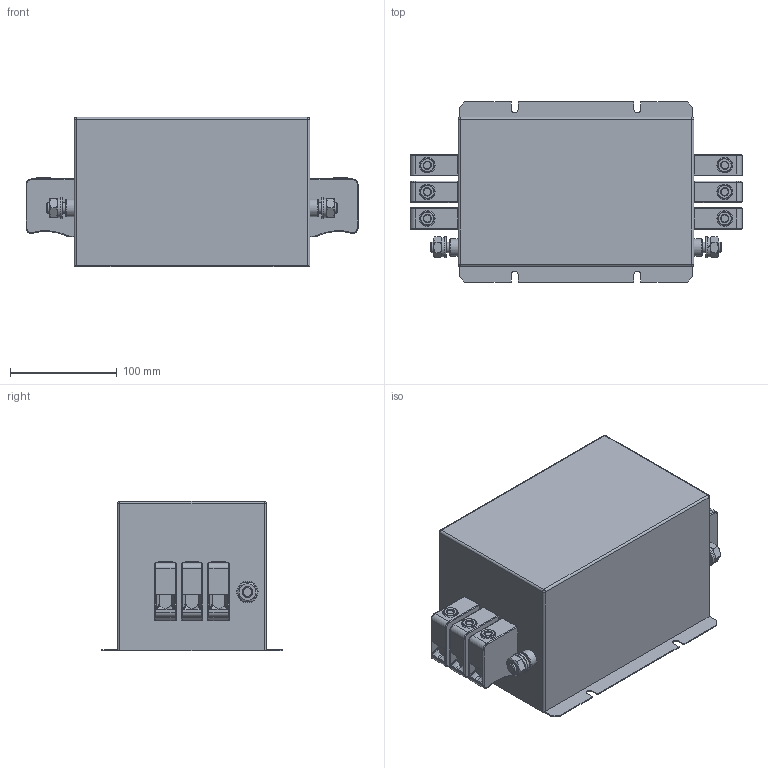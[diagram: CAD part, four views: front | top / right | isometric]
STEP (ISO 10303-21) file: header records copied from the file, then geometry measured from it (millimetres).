
FILE_DESCRIPTION((''),'2;1');
FILE_NAME('P:\Construction\INVENTOR_Projektedaten\HousingDesign\FN3120H-80-35.stp','2013-11-18T12:02:35',('erika.jenzer'),(''),'Autodesk Inventor 2013','Autodesk Inventor 2013','');
FILE_SCHEMA(('AUTOMOTIVE_DESIGN { 1 0 10303 214 1 1 1 1 }'));
Length unit declared in the file: millimetre
Products named in the file (1): FN3120H-80-35
Bounding box: 311.4 x 169 x 140 mm (x, y, z)
Volume: 4149556.3 mm3; surface area: 303436.9 mm2
Topology: 1 solids, 13 shells, 528 faces, 1206 edges, 740 vertices
Faces by surface type: plane 209, cylinder 171, bspline 66, torus 66, cone 12, sphere 4
Full cylindrical faces by diameter (mm): 6.8 x6, 9.188 x2, 10 x6, 10.5 x2, 12.7 x3, 16.5 x2, 20 x2
Entity records: 16543 total; most frequent: CARTESIAN_POINT 4656, DIRECTION 2370, ORIENTED_EDGE 2284, EDGE_CURVE 1142, AXIS2_PLACEMENT_3D 934, VERTEX_POINT 730, EDGE_LOOP 624, FACE_OUTER_BOUND 527
